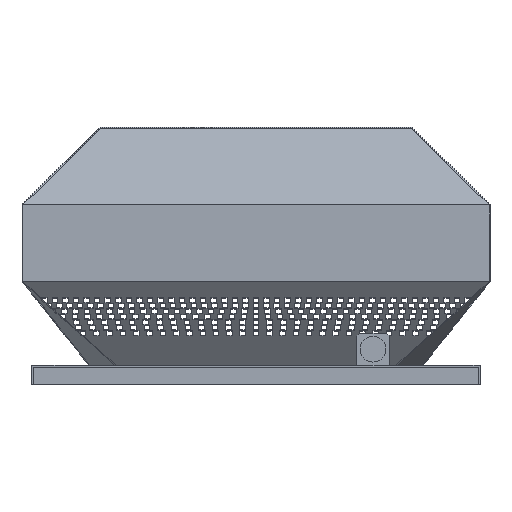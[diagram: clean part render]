
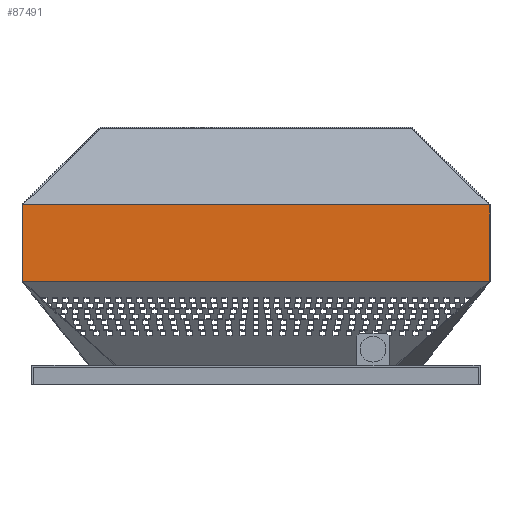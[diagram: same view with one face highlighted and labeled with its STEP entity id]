
A CAD part, left-side view. The second image highlights one B-rep face of the part: STEP entity #87491.
In plain terms, the highlighted planar face has unit normal (-1, 0, 0).
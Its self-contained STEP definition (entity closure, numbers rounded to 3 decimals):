
#7481=PLANE('',#91410);
#11352=FACE_OUTER_BOUND('',#17030,.T.);
#17030=EDGE_LOOP('',(#83585,#83586,#83587,#83588));
#17432=LINE('',#111747,#29166);
#28761=LINE('',#134362,#40495);
#28762=LINE('',#134365,#40496);
#28763=LINE('',#134366,#40497);
#29166=VECTOR('',#92036,10.);
#40495=VECTOR('',#110927,10.);
#40496=VECTOR('',#110930,10.);
#40497=VECTOR('',#110931,10.);
#40771=VERTEX_POINT('',#111647);
#40819=VERTEX_POINT('',#111745);
#48323=VERTEX_POINT('',#134358);
#48325=VERTEX_POINT('',#134364);
#48724=EDGE_CURVE('',#40771,#40819,#17432,.T.);
#60079=EDGE_CURVE('',#48323,#40771,#28761,.T.);
#60080=EDGE_CURVE('',#48325,#48323,#28762,.T.);
#60081=EDGE_CURVE('',#48325,#40819,#28763,.T.);
#83585=ORIENTED_EDGE('',*,*,#60080,.T.);
#83586=ORIENTED_EDGE('',*,*,#60079,.T.);
#83587=ORIENTED_EDGE('',*,*,#48724,.T.);
#83588=ORIENTED_EDGE('',*,*,#60081,.F.);
#87491=ADVANCED_FACE('',(#11352),#7481,.F.);
#91410=AXIS2_PLACEMENT_3D('',#134363,#110928,#110929);
#92036=DIRECTION('',(0.,-1.,0.));
#110927=DIRECTION('',(0.,0.,-1.));
#110928=DIRECTION('center_axis',(1.,0.,0.));
#110929=DIRECTION('ref_axis',(0.,0.,-1.));
#110930=DIRECTION('',(0.,1.,0.));
#110931=DIRECTION('',(0.,0.,-1.));
#111647=CARTESIAN_POINT('',(-483.,483.,212.4));
#111745=CARTESIAN_POINT('',(-483.,-483.,212.4));
#111747=CARTESIAN_POINT('',(-483.,483.,212.4));
#134358=CARTESIAN_POINT('',(-483.,483.,371.7));
#134362=CARTESIAN_POINT('',(-483.,483.,371.7));
#134363=CARTESIAN_POINT('Origin',(-483.,483.,371.7));
#134364=CARTESIAN_POINT('',(-483.,-483.,371.7));
#134365=CARTESIAN_POINT('',(-483.,483.,371.7));
#134366=CARTESIAN_POINT('',(-483.,-483.,371.7));
